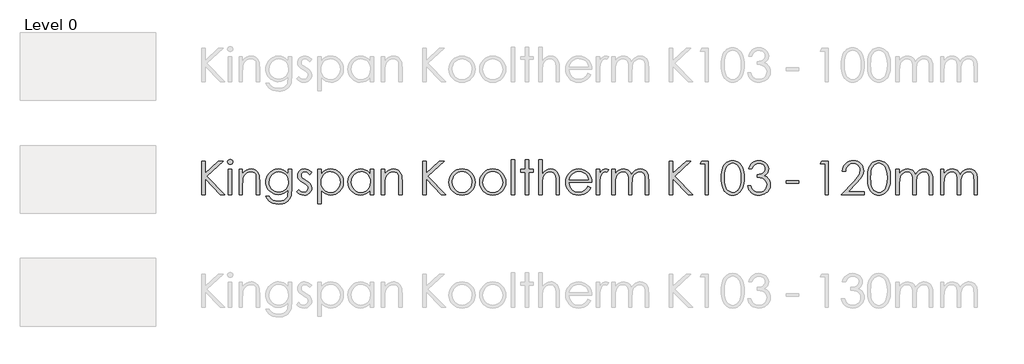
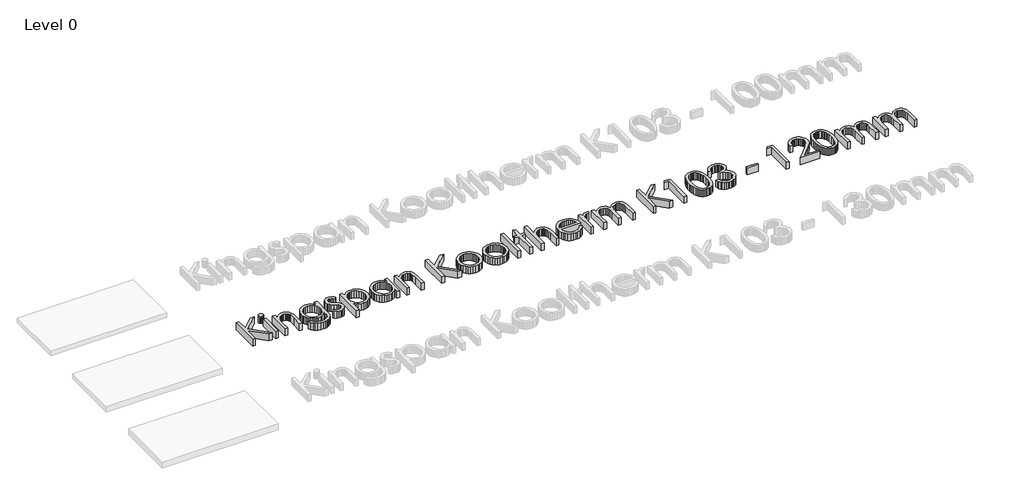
# One storey, part 4 of 13: 1 proxy.
"""IFC4 building model written with IfcOpenShell, lengths in millimetres."""

from ifc_helpers import new_model, si_unit, origin, origin_with_axes, place, context, project, spatial, polyline, outline, extrude, element, save

model = new_model("IFC4")

# Units and contexts
model_context = context("Model", 3, world=origin())
ifc_project = project(units=[si_unit("LENGTHUNIT", "METRE", prefix="MILLI")], contexts=[model_context])

# Site, building, storey
site = spatial("IfcSite", under=ifc_project)
building = spatial("IfcBuilding", under=site)
storey = spatial("IfcBuildingStorey", under=building, Name="Level 0", Elevation=0.0)

# Proxy
placement = place(None, origin())
element("IfcBuildingElementProxy", 1, Name="600mm KI_CenturyGothic", ObjectType="600mm KI_CenturyGothic", at=placement, inside=storey, context=model_context, shape_type="SweptSolid", body=[
    extrude(outline(polyline([(-3852.2663848, -12099.1034017), (-3792.944575, -12099.1034017), (-3792.944575, -12318.316027), (-3555.1938841, -12099.1034017), (-3471.6181051, -12099.1034017), (-3760.9664119, -12366.0515459), (-3441.9572002, -12692.3214999), (-3520.8984627, -12692.3214999), (-3792.944575, -12414.0960325), (-3792.944575, -12692.3214999), (-3852.2663848, -12692.3214999), (-3852.2663848, -12099.1034017)])), origin_with_axes(), (0.0, 0.0, 1.0), 150.0),
    extrude(outline(polyline([(-3348.1854852, -12069.4424967), (-3329.145347, -12072.7252792), (-3313.1176445, -12082.5736265), (-3302.226531, -12097.0178693), (-3298.5961598, -12114.088338), (-3302.226531, -12130.9270809), (-3313.1176445, -12145.2940817), (-3329.145347, -12155.142429), (-3348.1854852, -12158.4252115), (-3366.9938975, -12155.142429), (-3382.9443581, -12145.2940817), (-3393.8354717, -12130.9270809), (-3397.4658428, -12114.088338), (-3393.8354717, -12097.0178693), (-3382.9443581, -12082.5736265), (-3366.9938975, -12072.7252792), (-3348.1854852, -12069.4424967)])), origin_with_axes(), (0.0, 0.0, 1.0), 150.0),
    extrude(outline(polyline([(-3377.6919062, -12247.4079262), (-3318.3700964, -12247.4079262), (-3318.3700964, -12692.3214999), (-3377.6919062, -12692.3214999), (-3377.6919062, -12247.4079262)])), origin_with_axes(), (0.0, 0.0, 1.0), 150.0),
    extrude(outline(polyline([(-3189.8395084, -12247.4079262), (-3130.5176986, -12247.4079262), (-3130.5176986, -12326.5036726), (-3096.9946967, -12286.9944204), (-3060.0730495, -12259.303185), (-3019.7141359, -12242.9665147), (-2975.879335, -12237.5209579), (-2953.4357238, -12239.0995901), (-2932.2955704, -12243.8354865), (-2912.4588747, -12251.7286472), (-2893.9256368, -12262.7790723), (-2877.212412, -12276.5039994), (-2862.835756, -12292.4206667), (-2841.0921499, -12330.8292213), (-2833.6238199, -12355.2087086), (-2828.2892984, -12385.5551357), (-2824.0216812, -12464.1488095), (-2824.0216812, -12692.3214999), (-2883.343491, -12692.3214999), (-2883.343491, -12479.1337458), (-2883.343491, -12376.092998), (-2884.7290183, -12355.2956057), (-2889.8125035, -12337.2403023), (-2898.2849788, -12321.9270877), (-2910.1464442, -12309.355962), (-2924.7403432, -12299.5558909), (-2941.4101193, -12292.5558401), (-2980.977303, -12286.9557994), (-3005.3471351, -12289.1137461), (-3028.4038541, -12295.5875862), (-3050.1474602, -12306.3773197), (-3070.5779533, -12321.4829466), (-3088.6622225, -12339.7651482), (-3103.3671568, -12360.084606), (-3114.6927562, -12382.44132), (-3122.6390208, -12406.8352901), (-3128.5480292, -12453.9142525), (-3130.5176986, -12528.4141035), (-3130.5176986, -12692.3214999), (-3189.8395084, -12692.3214999), (-3189.8395084, -12247.4079262)])), origin_with_axes(), (0.0, 0.0, 1.0), 150.0),
    extrude(outline(polyline([(-2319.7862977, -12247.4079262), (-2260.4644879, -12247.4079262), (-2260.4644879, -12598.395301), (-2264.5196897, -12678.6496765), (-2269.588692, -12709.4499001), (-2276.6852953, -12734.0321474), (-2289.9371156, -12762.6454585), (-2307.2924139, -12787.7732271), (-2328.7511904, -12809.4154531), (-2354.3134448, -12827.5721366), (-2383.3226209, -12841.9343098), (-2415.122162, -12852.1930049), (-2449.7120682, -12858.348222), (-2487.0923395, -12860.3999611), (-2541.0458345, -12856.3833802), (-2589.206184, -12844.3336376), (-2630.260275, -12825.5059147), (-2662.8949946, -12801.1553932), (-2690.2000204, -12767.8061856), (-2715.2650299, -12721.9824048), (-2655.94322, -12721.9824048), (-2642.4355358, -12743.151524), (-2627.0933555, -12761.3951046), (-2609.9166791, -12776.7131468), (-2590.9055067, -12789.1056506), (-2569.7894914, -12798.6691682), (-2546.2982864, -12805.5002523), (-2492.1903075, -12810.9651195), (-2438.5071593, -12805.6354257), (-2415.083541, -12798.9733084), (-2393.93856, -12789.6463441), (-2359.6624492, -12765.6047903), (-2336.8567664, -12736.1176798), (-2329.3884364, -12717.4782342), (-2324.0539149, -12693.7697863), (-2319.7862977, -12631.1458835), (-2319.7862977, -12608.4367532), (-2354.757586, -12644.2190818), (-2396.6420279, -12670.6165148), (-2443.392712, -12686.8952536), (-2492.9627269, -12692.3214999), (-2522.4063889, -12690.4242447), (-2550.9521133, -12684.7324793), (-2578.5999001, -12675.2462036), (-2605.3497494, -12661.9654175), (-2630.1540674, -12645.4742634), (-2651.9652601, -12626.3568832), (-2670.7833277, -12604.6132772), (-2686.6082702, -12580.2434451), (-2699.1456025, -12553.9280817), (-2708.1008399, -12526.3478816), (-2713.4739824, -12497.5028447), (-2715.2650299, -12467.392971), (-2713.3967404, -12437.1044753), (-2707.7918722, -12407.8780563), (-2698.4504251, -12379.713714), (-2685.3723991, -12352.6114483), (-2668.9971079, -12327.4257483), (-2649.7638648, -12305.0111029), (-2627.67267, -12285.367512), (-2602.7235235, -12268.4949758), (-2575.9833294, -12254.943843), (-2548.5189922, -12245.2644624), (-2520.3305117, -12239.456834), (-2491.4178881, -12237.5209579), (-2444.5320306, -12242.4644421), (-2400.8903346, -12257.2948945), (-2359.6045177, -12283.8661218), (-2319.7862977, -12324.0319306), (-2319.7862977, -12247.4079262)]), holes=[polyline([(-2484.1571458, -12286.9557994), (-2529.0154023, -12292.9806707), (-2570.5908765, -12311.0552847), (-2606.2187212, -12339.7699758), (-2633.2340897, -12377.7150788), (-2650.2659375, -12421.9940208), (-2655.94322, -12469.7102292), (-2653.0080263, -12505.6229036), (-2644.2024452, -12538.2817613), (-2629.5264766, -12567.6868023), (-2608.9801206, -12593.8380266), (-2583.7606272, -12615.296803), (-2555.0652466, -12630.6245004), (-2522.8939786, -12639.8211189), (-2487.2468234, -12642.8866584), (-2451.3244937, -12639.845257), (-2419.1001219, -12630.7210528), (-2390.573708, -12615.5140459), (-2365.7452519, -12594.2242363), (-2345.6382095, -12567.9812872), (-2331.2760363, -12537.9148621), (-2322.6587323, -12504.024961), (-2319.7862977, -12466.3115838), (-2325.0773706, -12417.6105407), (-2340.9505892, -12374.3936754), (-2366.4983608, -12338.1672056), (-2400.8130926, -12310.4373492), (-2440.9982119, -12292.8261869), (-2484.1571458, -12286.9557994)])]), origin_with_axes(), (0.0, 0.0, 1.0), 150.0),
    extrude(outline(polyline([(-1904.5336289, -12298.6965743), (-1940.9918246, -12336.390641), (-1962.9575012, -12314.7628978), (-1984.6721416, -12299.3145098), (-2006.1357456, -12290.045477), (-2027.3483133, -12286.9557994), (-2052.181597, -12291.6289368), (-2073.2300256, -12305.6483489), (-2087.5970264, -12325.8857371), (-2092.3860267, -12349.212803), (-2088.4466878, -12370.7633042), (-2076.628671, -12391.2324183), (-2052.0657341, -12413.400855), (-2010.2006027, -12439.122421), (-1958.3326401, -12471.9888664), (-1939.8428507, -12487.8138088), (-1926.315856, -12503.2332311), (-1909.9791857, -12535.9065716), (-1904.5336289, -12572.4420092), (-1906.9474396, -12598.5884059), (-1914.1888714, -12622.6492701), (-1926.2579245, -12644.624602), (-1943.1545989, -12664.5144015), (-1963.6719892, -12681.0055557), (-1986.6031901, -12692.7849515), (-2011.9482016, -12699.852589), (-2039.7070237, -12702.2084682), (-2077.4397114, -12698.3270607), (-2113.3958344, -12686.6828383), (-2145.4512394, -12668.2027042), (-2171.4817731, -12643.8135617), (-2135.7959969, -12603.3387852), (-2114.0041146, -12624.9665283), (-2091.5749863, -12640.4149163), (-2068.5086121, -12649.6839491), (-2044.8049918, -12652.7736267), (-2013.637869, -12647.1349651), (-1987.4914724, -12630.2189802), (-1969.7644472, -12605.6560434), (-1963.8554388, -12577.0765256), (-1967.7561567, -12553.2860081), (-1979.4583106, -12532.2762005), (-2005.0253927, -12510.5712154), (-2050.2119275, -12483.7682622), (-2099.762632, -12453.1032121), (-2117.441381, -12437.9444814), (-2130.3890611, -12422.9016136), (-2146.3781427, -12390.7689666), (-2151.7078365, -12354.310771), (-2149.5305794, -12330.2643896), (-2142.9988078, -12308.3325063), (-2132.1125219, -12288.5151211), (-2116.8717217, -12270.812234), (-2098.309518, -12256.2473007), (-2077.4590218, -12245.8437769), (-2054.3202332, -12239.6016627), (-2028.8931521, -12237.5209579), (-1997.9481, -12241.3444339), (-1966.9064954, -12252.814862), (-1935.7683384, -12271.9322421), (-1904.5336289, -12298.6965743)])), origin_with_axes(), (0.0, 0.0, 1.0), 150.0),
    extrude(outline(polyline([(-1795.7769776, -12247.4079262), (-1736.4551678, -12247.4079262), (-1736.4551678, -12328.5119631), (-1700.9238754, -12288.2689124), (-1660.4490989, -12259.9211205), (-1614.9922173, -12243.1209986), (-1564.5146096, -12237.5209579), (-1520.0618732, -12241.7596094), (-1478.9305402, -12254.4755637), (-1441.1206107, -12275.668821), (-1406.6320845, -12305.3393811), (-1377.9077381, -12340.9768811), (-1357.3903478, -12380.070958), (-1345.0799137, -12422.6216116), (-1340.9764356, -12468.628842), (-1345.0412927, -12515.5291824), (-1357.235864, -12558.7508754), (-1377.5601494, -12598.293921), (-1406.014149, -12634.1583192), (-1440.2130179, -12663.9302594), (-1477.7719111, -12685.1959309), (-1518.6908288, -12697.9553339), (-1562.9697708, -12702.2084682), (-1612.6170277, -12696.743601), (-1658.0545988, -12680.3489992), (-1699.3211052, -12653.1019049), (-1736.4551678, -12615.07956), (-1736.4551678, -12850.5129928), (-1795.7769776, -12850.5129928), (-1795.7769776, -12247.4079262)]), holes=[polyline([(-1568.5311905, -12286.9557994), (-1602.5852307, -12290.2530647), (-1633.8392507, -12300.1448607), (-1662.2932503, -12316.6311872), (-1687.9472295, -12339.7120444), (-1709.1694525, -12367.6977647), (-1724.3281832, -12398.8986808), (-1733.4234216, -12433.3147926), (-1736.4551678, -12470.9461002), (-1731.048232, -12519.8016272), (-1714.8274246, -12563.4819442), (-1688.5265441, -12600.3263495), (-1652.8793888, -12628.6741414), (-1611.4390881, -12646.7487554), (-1567.7587711, -12652.7736267), (-1525.0632888, -12646.7101344), (-1485.0326535, -12628.5196576), (-1450.2544701, -12599.4187567), (-1423.3163435, -12560.6239924), (-1406.05277, -12515.9588407), (-1400.2982454, -12469.2467775), (-1405.9948385, -12422.3029886), (-1423.0846177, -12377.8695627), (-1449.8103289, -12339.5189395), (-1484.414718, -12310.8235589), (-1524.7157001, -12292.9227393), (-1568.5311905, -12286.9557994)])]), origin_with_axes(), (0.0, 0.0, 1.0), 150.0),
    extrude(outline(polyline([(-807.0801472, -12247.4079262), (-807.0801472, -12692.3214999), (-866.401957, -12692.3214999), (-866.401957, -12616.4699149), (-903.4780882, -12654.3184655), (-944.8797679, -12681.0441767), (-990.4525125, -12696.9173953), (-1040.0418379, -12702.2084682), (-1084.3159523, -12697.9553339), (-1125.2203871, -12685.1959309), (-1162.7551422, -12663.9302594), (-1196.9202178, -12634.1583192), (-1225.340424, -12598.293921), (-1245.6405713, -12558.7508754), (-1257.8206597, -12515.5291824), (-1261.8806892, -12468.628842), (-1257.7820388, -12422.6216116), (-1245.4860875, -12380.070958), (-1224.9928353, -12340.9768811), (-1196.3022822, -12305.3393811), (-1161.8475494, -12275.668821), (-1124.061758, -12254.4755637), (-1082.9449079, -12241.7596094), (-1038.4969991, -12237.5209579), (-987.7490446, -12243.1209986), (-942.0990581, -12259.9211205), (-921.2051134, -12272.6081091), (-901.6242816, -12288.2689124), (-866.401957, -12328.5119631), (-866.401957, -12247.4079262), (-807.0801472, -12247.4079262)]), holes=[polyline([(-1034.3259343, -12286.9557994), (-1078.1414247, -12292.9227393), (-1118.4424068, -12310.8235589), (-1153.0467959, -12339.5189395), (-1179.7725071, -12377.8695627), (-1196.8622863, -12422.3029886), (-1202.5588794, -12469.2467775), (-1196.8043548, -12515.9588407), (-1179.5407813, -12560.6239924), (-1152.6026548, -12599.4187567), (-1117.8244713, -12628.5196576), (-1077.6779731, -12646.7101344), (-1034.6349021, -12652.7736267), (-991.0125165, -12646.7487554), (-949.7460102, -12628.6741414), (-914.2726493, -12600.3263495), (-888.0297002, -12563.4819442), (-871.8088928, -12519.8016272), (-866.401957, -12470.9461002), (-869.4337032, -12433.3147926), (-878.5289416, -12398.8986808), (-893.6876723, -12367.6977647), (-914.9098953, -12339.7120444), (-940.5638746, -12316.6311872), (-969.0178742, -12300.1448607), (-1000.2718941, -12290.2530647), (-1034.3259343, -12286.9557994)])]), origin_with_axes(), (0.0, 0.0, 1.0), 150.0),
    extrude(outline(polyline([(-668.662591, -12247.4079262), (-609.3407811, -12247.4079262), (-609.3407811, -12326.5036726), (-575.8177792, -12286.9944204), (-538.896132, -12259.303185), (-498.5372184, -12242.9665147), (-454.7024175, -12237.5209579), (-432.2588064, -12239.0995901), (-411.1186529, -12243.8354865), (-391.2819572, -12251.7286472), (-372.7487193, -12262.7790723), (-356.0354946, -12276.5039994), (-341.6588385, -12292.4206667), (-319.9152324, -12330.8292213), (-312.4469024, -12355.2087086), (-307.1123809, -12385.5551357), (-302.8447637, -12464.1488095), (-302.8447637, -12692.3214999), (-362.1665735, -12692.3214999), (-362.1665735, -12479.1337458), (-362.1665735, -12376.092998), (-363.5521008, -12355.2956057), (-368.635586, -12337.2403023), (-377.1080613, -12321.9270877), (-388.9695267, -12309.355962), (-403.5634257, -12299.5558909), (-420.2332018, -12292.5558401), (-459.8003855, -12286.9557994), (-484.1702176, -12289.1137461), (-507.2269366, -12295.5875862), (-528.9705427, -12306.3773197), (-549.4010358, -12321.4829466), (-567.485305, -12339.7651482), (-582.1902393, -12360.084606), (-593.5158387, -12382.44132), (-601.4621033, -12406.8352901), (-607.3711117, -12453.9142525), (-609.3407811, -12528.4141035), (-609.3407811, -12692.3214999), (-668.662591, -12692.3214999), (-668.662591, -12247.4079262)])), origin_with_axes(), (0.0, 0.0, 1.0), 150.0),
    extrude(outline(polyline([(62.9730635, -12099.1034017), (122.2948734, -12099.1034017), (122.2948734, -12318.316027), (360.0455643, -12099.1034017), (443.6213432, -12099.1034017), (154.2730365, -12366.0515459), (473.2822481, -12692.3214999), (394.3409856, -12692.3214999), (122.2948734, -12414.0960325), (122.2948734, -12692.3214999), (62.9730635, -12692.3214999), (62.9730635, -12099.1034017)])), origin_with_axes(), (0.0, 0.0, 1.0), 150.0),
    extrude(outline(polyline([(760.1588128, -12237.5209579), (809.4681362, -12242.1458191), (854.3553585, -12256.0204025), (894.8204798, -12279.1447083), (930.8635, -12311.5187363), (957.7630055, -12346.7507161), (976.9769381, -12385.091684), (988.5052976, -12426.54164), (992.3480841, -12471.1005841), (988.283227, -12515.9153921), (976.0886558, -12557.8239721), (955.7643703, -12596.8263241), (927.3103707, -12632.9224481), (892.4742558, -12663.2350819), (853.0036246, -12684.8869632), (808.8984769, -12697.8780919), (760.1588128, -12702.2084682), (711.2839754, -12697.8780919), (667.0822753, -12684.8869632), (627.5537126, -12663.2350819), (592.6982872, -12632.9224481), (564.2442876, -12596.8263241), (543.9200022, -12557.8239721), (531.7254309, -12515.9153921), (527.6605738, -12471.1005841), (531.5033603, -12426.7347449), (543.0317198, -12385.4006518), (562.2456524, -12347.0983049), (589.145158, -12311.8277041), (625.2074886, -12279.3185026), (665.7305413, -12256.0976445), (710.7143161, -12242.1651295), (760.1588128, -12237.5209579)]), holes=[polyline([(760.004329, -12286.9557994), (725.7282181, -12290.3303067), (693.9624704, -12300.4538284), (664.7070856, -12317.3263647), (637.962064, -12340.9479154), (615.6584538, -12369.3584664), (599.7273037, -12400.5980035), (590.1686137, -12434.6665266), (586.9823836, -12471.5640357), (592.7948396, -12519.2995546), (610.2322075, -12563.6364281), (637.5758543, -12601.4270471), (673.1071466, -12629.5238028), (714.6439998, -12646.9611707), (760.004329, -12652.7736267), (805.3646581, -12646.9611707), (846.9015113, -12629.5238028), (882.4328037, -12601.4270471), (909.7764504, -12563.6364281), (927.2138183, -12519.2995546), (933.0262743, -12471.5640357), (929.8255614, -12434.6665266), (920.2234227, -12400.5980035), (904.2198583, -12369.3584664), (881.8148681, -12340.9479154), (854.9974321, -12317.3263647), (825.7565303, -12300.4538284), (794.0921625, -12290.3303067), (760.004329, -12286.9557994)])]), origin_with_axes(), (0.0, 0.0, 1.0), 150.0),
    extrude(outline(polyline([(1303.9420695, -12237.5209579), (1353.2513929, -12242.1458191), (1398.1386152, -12256.0204025), (1438.6037365, -12279.1447083), (1474.6467567, -12311.5187363), (1501.5462622, -12346.7507161), (1520.7601948, -12385.091684), (1532.2885543, -12426.54164), (1536.1313408, -12471.1005841), (1532.0664837, -12515.9153921), (1519.8719125, -12557.8239721), (1499.547627, -12596.8263241), (1471.0936274, -12632.9224481), (1436.2575126, -12663.2350819), (1396.7868813, -12684.8869632), (1352.6817336, -12697.8780919), (1303.9420695, -12702.2084682), (1255.0672321, -12697.8780919), (1210.865532, -12684.8869632), (1171.3369693, -12663.2350819), (1136.4815439, -12632.9224481), (1108.0275443, -12596.8263241), (1087.7032589, -12557.8239721), (1075.5086876, -12515.9153921), (1071.4438305, -12471.1005841), (1075.286617, -12426.7347449), (1086.8149766, -12385.4006518), (1106.0289091, -12347.0983049), (1132.9284147, -12311.8277041), (1168.9907453, -12279.3185026), (1209.5137981, -12256.0976445), (1254.4975728, -12242.1651295), (1303.9420695, -12237.5209579)]), holes=[polyline([(1303.7875857, -12286.9557994), (1269.5114748, -12290.3303067), (1237.7457271, -12300.4538284), (1208.4903423, -12317.3263647), (1181.7453207, -12340.9479154), (1159.4417105, -12369.3584664), (1143.5105604, -12400.5980035), (1133.9518704, -12434.6665266), (1130.7656404, -12471.5640357), (1136.5780963, -12519.2995546), (1154.0154643, -12563.6364281), (1181.359111, -12601.4270471), (1216.8904033, -12629.5238028), (1258.4272565, -12646.9611707), (1303.7875857, -12652.7736267), (1349.1479149, -12646.9611707), (1390.684768, -12629.5238028), (1426.2160604, -12601.4270471), (1453.5597071, -12563.6364281), (1470.997075, -12519.2995546), (1476.809531, -12471.5640357), (1473.6088181, -12434.6665266), (1464.0066795, -12400.5980035), (1448.003115, -12369.3584664), (1425.5981249, -12340.9479154), (1398.7806889, -12317.3263647), (1369.539787, -12300.4538284), (1337.8754193, -12290.3303067), (1303.7875857, -12286.9557994)])]), origin_with_axes(), (0.0, 0.0, 1.0), 150.0),
    extrude(outline(polyline([(1635.0010238, -12079.3294651), (1694.3228337, -12079.3294651), (1694.3228337, -12692.3214999), (1635.0010238, -12692.3214999), (1635.0010238, -12079.3294651)])), origin_with_axes(), (0.0, 0.0, 1.0), 150.0),
    extrude(outline(polyline([(1882.1752314, -12079.3294651), (1941.4970413, -12079.3294651), (1941.4970413, -12247.4079262), (2020.5927877, -12247.4079262), (2020.5927877, -12296.8427677), (1941.4970413, -12296.8427677), (1941.4970413, -12692.3214999), (1882.1752314, -12692.3214999), (1882.1752314, -12296.8427677), (1803.079485, -12296.8427677), (1803.079485, -12247.4079262), (1882.1752314, -12247.4079262), (1882.1752314, -12079.3294651)])), origin_with_axes(), (0.0, 0.0, 1.0), 150.0),
    extrude(outline(polyline([(2119.4624707, -12079.3294651), (2178.7842806, -12079.3294651), (2178.7842806, -12328.0485114), (2212.5583188, -12288.3461544), (2249.6151394, -12260.0756044), (2289.9161216, -12243.1596195), (2333.4226442, -12237.5209579), (2355.8662553, -12239.0995901), (2377.0064088, -12243.8354865), (2396.8431044, -12251.7286472), (2415.3763424, -12262.7790723), (2432.0895671, -12276.4895166), (2446.4662232, -12292.3627352), (2468.2098293, -12330.5974955), (2475.6781593, -12354.9045684), (2481.0126808, -12385.2654784), (2485.280298, -12464.1488095), (2485.280298, -12692.3214999), (2425.9584882, -12692.3214999), (2425.9584882, -12479.1337458), (2424.5681332, -12414.752589), (2420.3970685, -12376.092998), (2406.879729, -12337.2403023), (2397.1665551, -12321.9270877), (2385.4837117, -12309.355962), (2371.840854, -12299.5558909), (2356.2476374, -12292.5558401), (2319.2101273, -12286.9557994), (2296.3416854, -12289.1137461), (2274.6994594, -12295.5875862), (2254.2834492, -12306.3773197), (2235.0936547, -12321.4829466), (2218.1052556, -12339.7651482), (2204.2934312, -12360.084606), (2193.6581816, -12382.44132), (2186.1995068, -12406.8352901), (2180.6380871, -12453.6825267), (2178.7842806, -12528.4141035), (2178.7842806, -12692.3214999), (2119.4624707, -12692.3214999), (2119.4624707, -12079.3294651)])), origin_with_axes(), (0.0, 0.0, 1.0), 150.0),
    extrude(outline(polyline([(2991.0605203, -12544.0169753), (3038.950523, -12569.1978477), (3013.3255094, -12611.0822896), (2984.0315038, -12644.0452875), (2950.952643, -12669.1296074), (2913.9730643, -12687.3780157), (2872.4941426, -12698.5008551), (2825.9172528, -12702.2084682), (2774.4258447, -12697.7767119), (2728.8627554, -12684.481443), (2689.227985, -12662.3226615), (2655.5215335, -12631.3003674), (2628.6220279, -12594.6973431), (2609.4080954, -12555.7963712), (2597.8797358, -12514.5974515), (2594.0369493, -12471.1005841), (2597.3197318, -12430.2202874), (2607.1680791, -12391.618628), (2623.5819913, -12355.2956057), (2646.5614684, -12321.2512207), (2682.7493173, -12284.6192308), (2724.5758277, -12258.4535236), (2772.0409998, -12242.7540993), (2825.1448334, -12237.5209579), (2879.7935059, -12242.8892727), (2928.6490329, -12258.9942172), (2971.7114143, -12285.8357913), (3008.9806503, -12323.4139951), (3030.4539096, -12355.585263), (3045.9022976, -12391.541386), (3055.3258143, -12431.2823641), (3058.7244596, -12474.8081972), (2653.3587591, -12474.8081972), (2657.095338, -12512.0629503), (2666.6057518, -12545.8128504), (2681.8900007, -12576.0578975), (2702.9480845, -12602.7980916), (2728.3124066, -12624.6623882), (2756.5153699, -12640.2797429), (2787.5569744, -12649.6501557), (2821.4372203, -12652.7736267), (2854.9602222, -12649.761191), (2887.5563208, -12640.7238841), (2917.2944677, -12626.6851615), (2942.2436143, -12608.668479), (2965.725164, -12582.5027719), (2991.0605203, -12544.0169753)]), holes=[polyline([(2999.4026498, -12425.3733557), (2984.9777175, -12382.8516678), (2965.1844704, -12349.8307385), (2939.0766947, -12324.3022774), (2905.7081767, -12304.257994), (2867.7630738, -12291.2813481), (2827.9255433, -12286.9557994), (2795.503239, -12289.6689226), (2765.4368139, -12297.808292), (2737.726268, -12311.3739077), (2712.3716012, -12330.3657696), (2695.8321708, -12348.179692), (2681.4362043, -12369.9522638), (2669.1837016, -12395.683485), (2659.0746627, -12425.3733557), (2999.4026498, -12425.3733557)])]), origin_with_axes(), (0.0, 0.0, 1.0), 150.0),
    extrude(outline(polyline([(3137.820206, -12247.4079262), (3197.1420159, -12247.4079262), (3197.1420159, -12311.8277041), (3222.6897875, -12278.7874643), (3249.589293, -12255.6728138), (3277.7632906, -12242.0589219), (3307.1345382, -12237.5209579), (3330.4616041, -12241.305813), (3355.3335087, -12252.6603781), (3325.8270877, -12294.6799934), (3297.2475699, -12286.9557994), (3270.8308265, -12292.9034288), (3245.3409863, -12310.7463169), (3223.2884125, -12341.1023993), (3207.183468, -12384.5896114), (3199.6523789, -12442.7141712), (3197.1420159, -12540.1548783), (3197.1420159, -12692.3214999), (3137.820206, -12692.3214999), (3137.820206, -12247.4079262)])), origin_with_axes(), (0.0, 0.0, 1.0), 150.0),
    extrude(outline(polyline([(3414.6553185, -12247.4079262), (3473.9771284, -12247.4079262), (3473.9771284, -12323.5684789), (3503.5607913, -12287.0716623), (3533.9168737, -12261.9294109), (3577.3268439, -12243.6230712), (3622.8995884, -12237.5209579), (3653.7384329, -12240.668567), (3682.9165757, -12250.1113941), (3708.6767627, -12264.7873627), (3729.2617397, -12283.634396), (3746.0425511, -12309.0663047), (3760.3902414, -12343.4968994), (3775.16759, -12319.0981017), (3791.6925376, -12297.808292), (3809.965084, -12279.6274704), (3829.9852293, -12264.5556369), (3851.2798666, -12252.7279648), (3873.375889, -12244.2796277), (3896.2732965, -12239.2106253), (3919.9720892, -12237.5209579), (3962.3006723, -12243.3334139), (3981.4952943, -12250.5989839), (3999.3768034, -12260.7707818), (4015.4914031, -12273.53984), (4029.385297, -12288.5971907), (4050.5109676, -12325.5767694), (4057.8103309, -12348.9521114), (4063.0241619, -12377.5219739), (4067.1952266, -12450.2452603), (4067.1952266, -12692.3214999), (4007.8734168, -12692.3214999), (4007.8734168, -12446.6921311), (4005.4209852, -12385.5744462), (3998.0636904, -12347.1272706), (3984.7587663, -12322.6608861), (3964.4634466, -12303.4855746), (3938.3942919, -12291.0882432), (3907.7678627, -12286.9557994), (3888.1194443, -12288.5054659), (3869.3399976, -12293.1544651), (3834.3880198, -12311.7504621), (3805.6540182, -12340.6968791), (3785.8800816, -12377.9468046), (3779.1889985, -12402.1042213), (3774.4096535, -12433.1747916), (3770.5861775, -12516.0553931), (3770.5861775, -12692.3214999), (3711.2643677, -12692.3214999), (3711.2643677, -12461.9860352), (3708.850557, -12393.530366), (3701.6091252, -12351.2983353), (3688.3621325, -12325.0553863), (3667.9316394, -12304.5669617), (3641.6114484, -12291.35859), (3610.6953619, -12286.9557994), (3573.7544042, -12292.9999812), (3539.2465676, -12311.1325266), (3510.2808401, -12339.499629), (3489.9662099, -12376.2474819), (3477.9743988, -12428.0768236), (3473.9771284, -12501.6883923), (3473.9771284, -12692.3214999), (3414.6553185, -12692.3214999), (3414.6553185, -12247.4079262)])), origin_with_axes(), (0.0, 0.0, 1.0), 150.0),
    extrude(outline(polyline([(4433.0130538, -12099.1034017), (4492.3348637, -12099.1034017), (4492.3348637, -12318.316027), (4730.0855546, -12099.1034017), (4813.6613335, -12099.1034017), (4524.3130268, -12366.0515459), (4843.3222385, -12692.3214999), (4764.3809759, -12692.3214999), (4492.3348637, -12414.0960325), (4492.3348637, -12692.3214999), (4433.0130538, -12692.3214999), (4433.0130538, -12099.1034017)])), origin_with_axes(), (0.0, 0.0, 1.0), 150.0),
    extrude(outline(polyline([(5010.6282802, -12099.1034017), (5125.1008351, -12099.1034017), (5125.1008351, -12692.3214999), (5065.7790253, -12692.3214999), (5065.7790253, -12148.5382432), (4976.7963106, -12148.5382432), (5010.6282802, -12099.1034017)])), origin_with_axes(), (0.0, 0.0, 1.0), 150.0),
    extrude(outline(polyline([(5352.5011061, -12395.8669347), (5354.0797383, -12341.4355052), (5358.8156347, -12293.5406748), (5366.7087954, -12252.1824436), (5377.7592204, -12217.3608116), (5391.6869077, -12187.7192172), (5408.2118552, -12161.9010988), (5427.334063, -12139.9064564), (5449.053531, -12121.73529), (5472.747496, -12107.5082902), (5497.793195, -12097.3461475), (5524.190628, -12091.2488619), (5551.9397949, -12089.2164334), (5580.1427582, -12091.2633448), (5606.974677, -12097.404079), (5632.4355515, -12107.638636), (5656.5253815, -12121.9670159), (5678.7083011, -12140.3843909), (5698.4484443, -12162.8859335), (5715.7458112, -12189.4716437), (5730.6004018, -12220.1415214), (5742.5294539, -12255.6583309), (5751.0502054, -12296.7848363), (5756.1626563, -12343.5210375), (5757.8668066, -12395.8669347), (5756.1867944, -12448.0535203), (5751.1467578, -12494.6207548), (5742.7466968, -12535.5686382), (5730.9866115, -12570.8971704), (5716.2768496, -12601.4222195), (5699.0277589, -12627.9596535), (5679.2393394, -12650.5094723), (5656.9115912, -12669.071676), (5632.6527944, -12683.5690226), (5607.0712295, -12693.9242701), (5580.1668963, -12700.1374187), (5551.9397949, -12702.2084682), (5524.2147661, -12700.2001778), (5497.8897474, -12694.1753064), (5472.964739, -12684.1338543), (5449.4397407, -12670.0758212), (5427.8651013, -12652.0398282), (5408.7911698, -12630.0644964), (5392.2179461, -12604.1498255), (5378.1454301, -12574.2958158), (5366.9260384, -12539.2762513), (5358.9121871, -12497.8649163), (5354.1038764, -12450.0618107), (5352.5011061, -12395.8669347)]), holes=[polyline([(5411.8229159, -12395.7124508), (5416.206396, -12484.038609), (5421.6857461, -12519.0195525), (5429.3568363, -12547.8790723), (5439.1713903, -12572.1185586), (5451.0811319, -12593.2394015), (5465.0860611, -12611.2416011), (5481.1861779, -12626.1251574), (5516.4857445, -12646.1115094), (5534.8886366, -12651.1080973), (5553.7936014, -12652.7736267), (5572.7854634, -12651.1418907), (5591.1400794, -12646.2466828), (5625.9375733, -12626.665851), (5641.694929, -12611.9898824), (5655.4439943, -12594.0697524), (5667.1847692, -12572.9054608), (5676.9172536, -12548.4970078), (5686.3793912, -12515.1381451), (5693.138061, -12478.5544313), (5698.5449967, -12395.7124508), (5693.7173755, -12314.1063413), (5687.682849, -12279.4150551), (5679.2345118, -12248.7982811), (5668.652366, -12222.135329), (5656.2164137, -12199.3055082), (5641.9266548, -12180.3088186), (5625.7830894, -12165.1452603), (5590.7152487, -12145.2747712), (5572.4861509, -12140.307149), (5553.7936014, -12138.6512749), (5534.7776014, -12140.307149), (5516.3505711, -12145.2747712), (5481.2634199, -12165.1452603), (5465.3177869, -12179.9564022), (5451.3900996, -12197.8958428), (5439.480358, -12218.9635819), (5429.5885621, -12243.1596195), (5421.8160919, -12272.0143117), (5416.2643275, -12307.0580143), (5411.8229159, -12395.7124508)])]), origin_with_axes(), (0.0, 0.0, 1.0), 150.0),
    extrude(outline(polyline([(5896.2843628, -12237.5209579), (5836.962553, -12237.5209579), (5847.4867673, -12203.8917483), (5861.9116996, -12174.3756721), (5880.2373498, -12148.9727291), (5902.463718, -12127.6829194), (5927.7314876, -12110.8538318), (5955.181342, -12098.8330549), (5984.8132812, -12091.6205887), (6016.6273051, -12089.2164334), (6062.9145376, -12094.3723328), (6105.9962296, -12109.8400313), (6142.7827034, -12134.0553795), (6170.1842816, -12165.454228), (6187.2161294, -12201.2365567), (6192.8934119, -12238.6023451), (6188.2106193, -12274.037085), (6174.1622415, -12305.5711069), (6150.7482785, -12333.2044109), (6117.9687303, -12356.936997), (6155.3538292, -12378.1012885), (6185.3237018, -12407.2987418), (6201.6120959, -12431.398227), (6213.2466631, -12456.8880672), (6220.2274034, -12483.7682622), (6222.5543169, -12512.0388122), (6220.8549942, -12536.7031292), (6215.7570261, -12560.7977868), (6207.2604128, -12584.3227851), (6195.365154, -12607.2781241), (6180.5347016, -12628.6644862), (6163.232507, -12647.4825538), (6143.4585704, -12663.7323269), (6121.2128917, -12677.4138055), (6097.0361646, -12688.2614704), (6071.4690825, -12696.0098025), (6044.5116454, -12700.6588018), (6016.1638535, -12702.2084682), (5978.6290984, -12699.5387936), (5944.3481599, -12691.52977), (5913.3210382, -12678.1813973), (5885.5477332, -12659.4936754), (5861.6654909, -12635.6403989), (5842.3115573, -12606.795362), (5827.4859325, -12572.9585647), (5817.1886164, -12534.130007), (5876.5104262, -12534.130007), (5895.5505644, -12584.8779615), (5907.6485832, -12604.169136), (5921.4652352, -12619.4051087), (5941.5288291, -12634.0038353), (5964.180028, -12644.4314972), (5989.4188318, -12650.6880943), (6017.2452407, -12652.7736267), (6048.6054683, -12650.2777465), (6076.7215344, -12642.7901059), (6101.593439, -12630.310705), (6123.2211822, -12612.8395438), (6140.7261368, -12592.0180133), (6153.2296758, -12569.487505), (6160.7317992, -12545.2480188), (6163.232507, -12519.2995546), (6158.2310914, -12484.7337865), (6143.2268446, -12452.4080346), (6119.8032263, -12425.0450774), (6089.5436964, -12405.3676933), (6046.6357988, -12392.5648417), (5985.2670776, -12385.8254825), (5985.2670776, -12336.390641), (6027.1515195, -12332.7409593), (6065.0580014, -12321.7919143), (6096.0706403, -12305.2042077), (6117.2735528, -12284.6385412), (6129.4970898, -12261.0797496), (6133.5716021, -12235.5126675), (6131.5102078, -12216.4821845), (6125.326025, -12198.7841251), (6115.0190537, -12182.4184891), (6100.5892938, -12167.3852765), (6083.0119248, -12154.8141508), (6063.2621263, -12145.8347753), (6041.3398983, -12140.44715), (6017.2452407, -12138.6512749), (5979.2228958, -12144.270626), (5946.7233496, -12161.1286794), (5932.4191078, -12174.3322235), (5919.2445295, -12191.4654513), (5896.2843628, -12237.5209579)])), origin_with_axes(), (0.0, 0.0, 1.0), 150.0),
    extrude(outline(polyline([(6499.3894294, -12445.1472923), (6726.7897004, -12445.1472923), (6726.7897004, -12494.5821338), (6499.3894294, -12494.5821338), (6499.3894294, -12445.1472923)])), origin_with_axes(), (0.0, 0.0, 1.0), 150.0),
    extrude(outline(polyline([(7136.3264656, -12099.1034017), (7250.7990205, -12099.1034017), (7250.7990205, -12692.3214999), (7191.4772106, -12692.3214999), (7191.4772106, -12148.5382432), (7102.4944959, -12148.5382432), (7136.3264656, -12099.1034017)])), origin_with_axes(), (0.0, 0.0, 1.0), 150.0),
    extrude(outline(polyline([(7557.2950379, -12277.0688311), (7497.9732281, -12277.0688311), (7502.4580882, -12237.8106152), (7513.5954104, -12202.2213914), (7531.3851947, -12170.3011597), (7555.827441, -12142.0499202), (7585.2228268, -12118.9352697), (7617.8720292, -12102.4248051), (7653.7750484, -12092.5185263), (7692.9318843, -12089.2164334), (7731.403198, -12092.5136987), (7766.0220699, -12102.4054946), (7796.7885001, -12118.8918211), (7823.7024885, -12141.9726783), (7845.5667851, -12169.533568), (7861.1841398, -12199.459992), (7870.5545527, -12231.7519505), (7873.6780236, -12266.4094434), (7867.5952208, -12315.2070389), (7849.3468125, -12360.8763359), (7813.5644839, -12412.763609), (7754.8799201, -12480.215133), (7602.095363, -12642.8866584), (7883.5649919, -12642.8866584), (7883.5649919, -12692.3214999), (7478.1992914, -12692.3214999), (7704.2092075, -12451.6356152), (7760.9434124, -12386.1151397), (7793.6553739, -12340.0210121), (7809.1810038, -12302.6552237), (7814.3562138, -12263.3197658), (7812.1065423, -12238.7133804), (7805.3575278, -12215.8739043), (7794.1091703, -12194.8013375), (7778.3614698, -12175.4956802), (7759.3502973, -12159.3762529), (7738.311524, -12147.8623762), (7715.2451497, -12140.9540502), (7690.1511745, -12138.6512749), (7663.8165006, -12140.9250845), (7639.8087401, -12147.7465133), (7618.1278932, -12159.1155613), (7598.7739596, -12175.0322286), (7582.5386694, -12195.0523738), (7570.2137523, -12218.731856), (7561.7992085, -12246.0706751), (7557.2950379, -12277.0688311)])), origin_with_axes(), (0.0, 0.0, 1.0), 150.0),
    extrude(outline(polyline([(7942.8868017, -12395.8669347), (7944.4654339, -12341.4355052), (7949.2013303, -12293.5406748), (7957.094491, -12252.1824436), (7968.1449161, -12217.3608116), (7982.0726034, -12187.7192172), (7998.5975509, -12161.9010988), (8017.7197586, -12139.9064564), (8039.4392266, -12121.73529), (8063.1331916, -12107.5082902), (8088.1788906, -12097.3461475), (8114.5763236, -12091.2488619), (8142.3254905, -12089.2164334), (8170.5284538, -12091.2633448), (8197.3603726, -12097.404079), (8222.8212471, -12107.638636), (8246.9110771, -12121.9670159), (8269.0939967, -12140.3843909), (8288.8341399, -12162.8859335), (8306.1315069, -12189.4716437), (8320.9860974, -12220.1415214), (8332.9151495, -12255.6583309), (8341.435901, -12296.7848363), (8346.5483519, -12343.5210375), (8348.2525022, -12395.8669347), (8346.57249, -12448.0535203), (8341.5324534, -12494.6207548), (8333.1323925, -12535.5686382), (8321.3723071, -12570.8971704), (8306.6625452, -12601.4222195), (8289.4134545, -12627.9596535), (8269.625035, -12650.5094723), (8247.2972868, -12669.071676), (8223.03849, -12683.5690226), (8197.4569251, -12693.9242701), (8170.5525919, -12700.1374187), (8142.3254905, -12702.2084682), (8114.6004617, -12700.2001778), (8088.2754431, -12694.1753064), (8063.3504346, -12684.1338543), (8039.8254363, -12670.0758212), (8018.2507969, -12652.0398282), (7999.1768654, -12630.0644964), (7982.6036417, -12604.1498255), (7968.5311258, -12574.2958158), (7957.311734, -12539.2762513), (7949.2978827, -12497.8649163), (7944.489572, -12450.0618107), (7942.8868017, -12395.8669347)]), holes=[polyline([(8002.2086116, -12395.7124508), (8006.5920916, -12484.038609), (8012.0714418, -12519.0195525), (8019.7425319, -12547.8790723), (8029.5570859, -12572.1185586), (8041.4668275, -12593.2394015), (8055.4717567, -12611.2416011), (8071.5718736, -12626.1251574), (8106.8714401, -12646.1115094), (8125.2743323, -12651.1080973), (8144.179297, -12652.7736267), (8163.171159, -12651.1418907), (8181.525775, -12646.2466828), (8216.3232689, -12626.665851), (8232.0806246, -12611.9898824), (8245.8296899, -12594.0697524), (8257.5704648, -12572.9054608), (8267.3029492, -12548.4970078), (8276.7650868, -12515.1381451), (8283.5237566, -12478.5544313), (8288.9306924, -12395.7124508), (8284.1030711, -12314.1063413), (8278.0685446, -12279.4150551), (8269.6202074, -12248.7982811), (8259.0380616, -12222.135329), (8246.6021093, -12199.3055082), (8232.3123504, -12180.3088186), (8216.168785, -12165.1452603), (8181.1009443, -12145.2747712), (8162.8718465, -12140.307149), (8144.179297, -12138.6512749), (8125.163297, -12140.307149), (8106.7362667, -12145.2747712), (8071.6491155, -12165.1452603), (8055.7034825, -12179.9564022), (8041.7757953, -12197.8958428), (8029.8660536, -12218.9635819), (8019.9742577, -12243.1596195), (8012.2017875, -12272.0143117), (8006.6500231, -12307.0580143), (8002.2086116, -12395.7124508)])]), origin_with_axes(), (0.0, 0.0, 1.0), 150.0),
    extrude(outline(polyline([(8447.1221852, -12247.4079262), (8506.4439951, -12247.4079262), (8506.4439951, -12323.5684789), (8536.027658, -12287.0716623), (8566.3837404, -12261.9294109), (8609.7937106, -12243.6230712), (8655.3664551, -12237.5209579), (8686.2052996, -12240.668567), (8715.3834424, -12250.1113941), (8741.1436294, -12264.7873627), (8761.7286063, -12283.634396), (8778.5094178, -12309.0663047), (8792.8571081, -12343.4968994), (8807.6344567, -12319.0981017), (8824.1594042, -12297.808292), (8842.4319506, -12279.6274704), (8862.4520959, -12264.5556369), (8883.7467332, -12252.7279648), (8905.8427557, -12244.2796277), (8928.7401632, -12239.2106253), (8952.4389559, -12237.5209579), (8994.7675389, -12243.3334139), (9013.962161, -12250.5989839), (9031.8436701, -12260.7707818), (9047.9582698, -12273.53984), (9061.8521637, -12288.5971907), (9082.9778343, -12325.5767694), (9090.2771976, -12348.9521114), (9095.4910285, -12377.5219739), (9099.6620933, -12450.2452603), (9099.6620933, -12692.3214999), (9040.3402835, -12692.3214999), (9040.3402835, -12446.6921311), (9037.8878519, -12385.5744462), (9030.5305571, -12347.1272706), (9017.225633, -12322.6608861), (8996.9303133, -12303.4855746), (8970.8611585, -12291.0882432), (8940.2347294, -12286.9557994), (8920.5863109, -12288.5054659), (8901.8068643, -12293.1544651), (8866.8548865, -12311.7504621), (8838.1208849, -12340.6968791), (8818.3469483, -12377.9468046), (8811.6558652, -12402.1042213), (8806.8765202, -12433.1747916), (8803.0530442, -12516.0553931), (8803.0530442, -12692.3214999), (8743.7312343, -12692.3214999), (8743.7312343, -12461.9860352), (8741.3174237, -12393.530366), (8734.0759919, -12351.2983353), (8720.8289992, -12325.0553863), (8700.3985061, -12304.5669617), (8674.0783151, -12291.35859), (8643.1622286, -12286.9557994), (8606.2212709, -12292.9999812), (8571.7134342, -12311.1325266), (8542.7477068, -12339.499629), (8522.4330766, -12376.2474819), (8510.4412654, -12428.0768236), (8506.4439951, -12501.6883923), (8506.4439951, -12692.3214999), (8447.1221852, -12692.3214999), (8447.1221852, -12247.4079262)])), origin_with_axes(), (0.0, 0.0, 1.0), 150.0),
    extrude(outline(polyline([(9238.0796495, -12247.4079262), (9297.4014594, -12247.4079262), (9297.4014594, -12323.5684789), (9326.9851223, -12287.0716623), (9357.3412047, -12261.9294109), (9400.7511749, -12243.6230712), (9446.3239194, -12237.5209579), (9477.1627639, -12240.668567), (9506.3409067, -12250.1113941), (9532.1010937, -12264.7873627), (9552.6860706, -12283.634396), (9569.4668821, -12309.0663047), (9583.8145724, -12343.4968994), (9598.591921, -12319.0981017), (9615.1168685, -12297.808292), (9633.389415, -12279.6274704), (9653.4095602, -12264.5556369), (9674.7041975, -12252.7279648), (9696.80022, -12244.2796277), (9719.6976275, -12239.2106253), (9743.3964202, -12237.5209579), (9785.7250032, -12243.3334139), (9804.9196253, -12250.5989839), (9822.8011344, -12260.7707818), (9838.9157341, -12273.53984), (9852.809628, -12288.5971907), (9873.9352986, -12325.5767694), (9881.2346619, -12348.9521114), (9886.4484928, -12377.5219739), (9890.6195576, -12450.2452603), (9890.6195576, -12692.3214999), (9831.2977478, -12692.3214999), (9831.2977478, -12446.6921311), (9828.8453162, -12385.5744462), (9821.4880214, -12347.1272706), (9808.1830973, -12322.6608861), (9787.8877776, -12303.4855746), (9761.8186229, -12291.0882432), (9731.1921937, -12286.9557994), (9711.5437752, -12288.5054659), (9692.7643286, -12293.1544651), (9657.8123508, -12311.7504621), (9629.0783492, -12340.6968791), (9609.3044126, -12377.9468046), (9602.6133295, -12402.1042213), (9597.8339845, -12433.1747916), (9594.0105085, -12516.0553931), (9594.0105085, -12692.3214999), (9534.6886987, -12692.3214999), (9534.6886987, -12461.9860352), (9532.274888, -12393.530366), (9525.0334562, -12351.2983353), (9511.7864635, -12325.0553863), (9491.3559704, -12304.5669617), (9465.0357794, -12291.35859), (9434.1196929, -12286.9557994), (9397.1787352, -12292.9999812), (9362.6708986, -12311.1325266), (9333.7051711, -12339.499629), (9313.3905409, -12376.2474819), (9301.3987298, -12428.0768236), (9297.4014594, -12501.6883923), (9297.4014594, -12692.3214999), (9238.0796495, -12692.3214999), (9238.0796495, -12247.4079262)])), origin_with_axes(), (0.0, 0.0, 1.0), 150.0),
])

save(model, "model.ifc")
